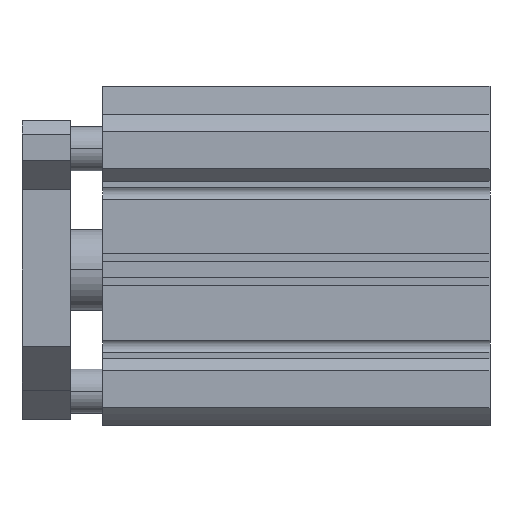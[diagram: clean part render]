
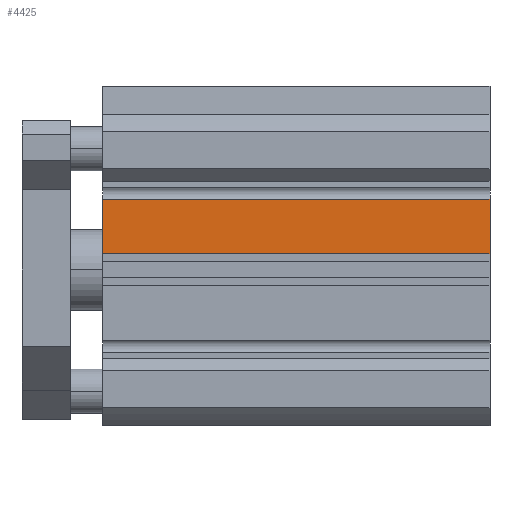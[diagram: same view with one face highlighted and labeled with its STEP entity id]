
A CAD part, top view. The second image highlights one B-rep face of the part: STEP entity #4425.
In plain terms, the highlighted planar face has unit normal (0, 0, 1).
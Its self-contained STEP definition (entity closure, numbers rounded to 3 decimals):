
#7 = LINE ( 'NONE', #1401, #3775 ) ;
#306 = VERTEX_POINT ( 'NONE', #4901 ) ;
#494 = CARTESIAN_POINT ( 'NONE',  ( 96., 17.5, 35.5 ) ) ;
#641 = LINE ( 'NONE', #3637, #1550 ) ;
#959 = ORIENTED_EDGE ( 'NONE', *, *, #1878, .T. ) ;
#1039 = DIRECTION ( 'NONE',  ( 0., -1., 0. ) ) ;
#1401 = CARTESIAN_POINT ( 'NONE',  ( 96., 4., 35.5 ) ) ;
#1450 = DIRECTION ( 'NONE',  ( 0., 0., -1. ) ) ;
#1539 = VECTOR ( 'NONE', #1891, 1000. ) ;
#1550 = VECTOR ( 'NONE', #3927, 1000. ) ;
#1642 = VECTOR ( 'NONE', #1983, 1000. ) ;
#1878 = EDGE_CURVE ( 'NONE', #306, #4329, #4235, .T. ) ;
#1891 = DIRECTION ( 'NONE',  ( 0., -1., 0. ) ) ;
#1924 = EDGE_CURVE ( 'NONE', #6010, #2411, #2939, .T. ) ;
#1983 = DIRECTION ( 'NONE',  ( 0., -1., 0. ) ) ;
#2326 = DIRECTION ( 'NONE',  ( -1., 0., 0. ) ) ;
#2411 = VERTEX_POINT ( 'NONE', #3810 ) ;
#2436 = CARTESIAN_POINT ( 'NONE',  ( 0., 4., 35.5 ) ) ;
#2662 = ORIENTED_EDGE ( 'NONE', *, *, #4485, .T. ) ;
#2939 = LINE ( 'NONE', #494, #1642 ) ;
#3043 = EDGE_LOOP ( 'NONE', ( #959, #4672, #5571, #2662 ) ) ;
#3254 = CARTESIAN_POINT ( 'NONE',  ( 96., 17.5, 35.5 ) ) ;
#3637 = CARTESIAN_POINT ( 'NONE',  ( 96., 17.5, 35.5 ) ) ;
#3775 = VECTOR ( 'NONE', #2326, 1000. ) ;
#3810 = CARTESIAN_POINT ( 'NONE',  ( 96., 4., 35.5 ) ) ;
#3814 = AXIS2_PLACEMENT_3D ( 'NONE', #3830, #1450, #1039 ) ;
#3830 = CARTESIAN_POINT ( 'NONE',  ( 96., 17.5, 35.5 ) ) ;
#3927 = DIRECTION ( 'NONE',  ( -1., 0., 0. ) ) ;
#4172 = CARTESIAN_POINT ( 'NONE',  ( 0., 17.5, 35.5 ) ) ;
#4235 = LINE ( 'NONE', #4172, #1539 ) ;
#4329 = VERTEX_POINT ( 'NONE', #2436 ) ;
#4425 = ADVANCED_FACE ( 'NONE', ( #4714 ), #5204, .F. ) ;
#4485 = EDGE_CURVE ( 'NONE', #6010, #306, #641, .T. ) ;
#4672 = ORIENTED_EDGE ( 'NONE', *, *, #4673, .F. ) ;
#4673 = EDGE_CURVE ( 'NONE', #2411, #4329, #7, .T. ) ;
#4714 = FACE_OUTER_BOUND ( 'NONE', #3043, .T. ) ;
#4901 = CARTESIAN_POINT ( 'NONE',  ( 0., 17.5, 35.5 ) ) ;
#5204 = PLANE ( 'NONE',  #3814 ) ;
#5571 = ORIENTED_EDGE ( 'NONE', *, *, #1924, .F. ) ;
#6010 = VERTEX_POINT ( 'NONE', #3254 ) ;
